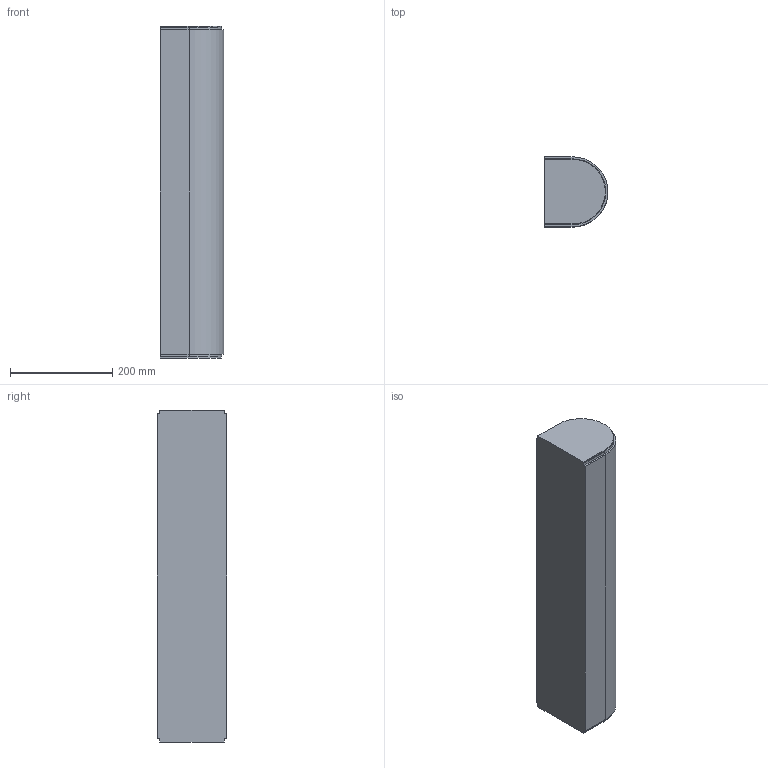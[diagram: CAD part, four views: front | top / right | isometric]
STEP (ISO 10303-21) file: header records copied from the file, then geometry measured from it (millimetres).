
FILE_DESCRIPTION (( 'STEP AP214' ), '1' );
FILE_NAME ('FS-MTC2-150-INOX Aandrijving & omloop.650 omloop.STEP', '2017-02-08T12:38:33', ( '' ), ( '' ), 'SwSTEP 2.0', 'SolidWorks 2016', '' );
FILE_SCHEMA (( 'AUTOMOTIVE_DESIGN' ));
Length unit declared in the file: millimetre
Products named in the file (1): FS-MTC2-150-INOX Aandrijving & omloop.650 omloop
Bounding box: 125 x 136.5 x 650.5 mm (x, y, z)
Volume: 9777129.2 mm3; surface area: 331883.1 mm2
Topology: 1 solids, 1 shells, 22 faces, 60 edges, 40 vertices
Faces by surface type: plane 17, cylinder 5
Entity records: 728 total; most frequent: CARTESIAN_POINT 123, ORIENTED_EDGE 120, DIRECTION 116, EDGE_CURVE 60, LINE 50, VECTOR 50, VERTEX_POINT 40, AXIS2_PLACEMENT_3D 33
